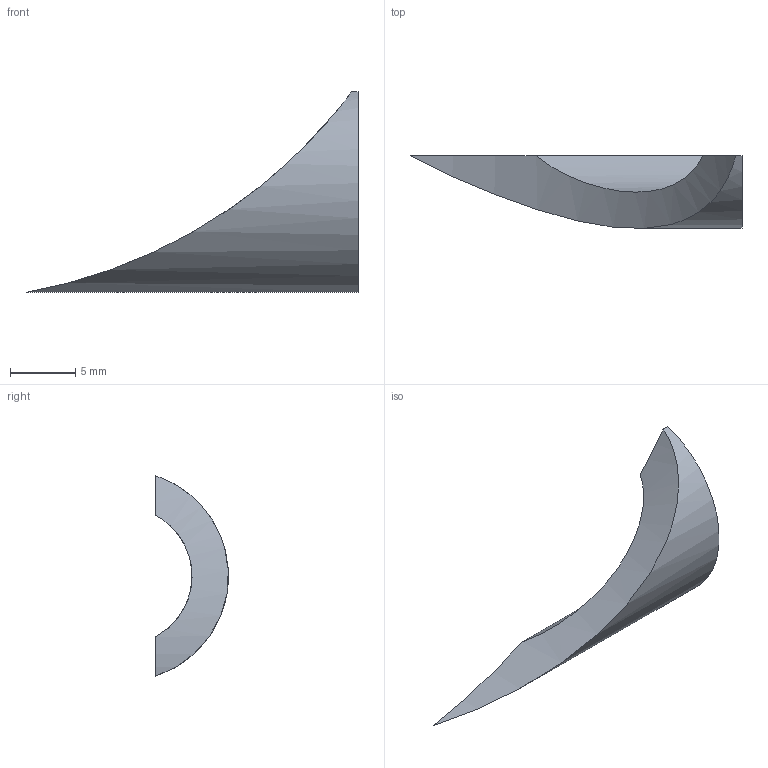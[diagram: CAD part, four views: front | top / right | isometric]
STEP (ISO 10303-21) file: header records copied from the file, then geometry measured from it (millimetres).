
FILE_DESCRIPTION(/* description */ ('STEP AP242 Edition 2','CAx-IF Rec.Pracs.---Representation and Presentation of Product Manufacturing Information (PMI)---4.0---2014-10-13','CAx-IF Rec.Pracs.---3D Tessellated Geometry---0.4---2014-09-14','2;1','CAx-IF Rec.Pracs.---User Defined Attributes---1.5---2016-08-15'),/* implementation_level */ '2;1');
FILE_NAME(/* name */ 'main - Part 48 - right side linear rod housing',/* time_stamp */ '2026-11-08T20:03:45Z',/* author */ (''),/* organization */ (''),/* preprocessor_version */ 'ST-DEVELOPER v20',/* originating_system */ 'ONSHAPE BY PTC INC, 1.223',/* authorisation */ ' ');
FILE_SCHEMA (('AP242_MANAGED_MODEL_BASED_3D_ENGINEERING_MIM_LF { 1 0 10303 442 3 1 4 }'));
Length unit declared in the file: metre
Products named in the file (1): Part 48 - right side linear rod housing
Bounding box: 25.52 x 5.59 x 15.41 mm (x, y, z)
Volume: 408.8 mm3; surface area: 491.8 mm2
Topology: 1 solids, 1 shells, 6 faces, 12 edges, 8 vertices
Faces by surface type: plane 3, cylinder 3
Entity records: 195 total; most frequent: CARTESIAN_POINT 44, DIRECTION 28, ORIENTED_EDGE 24, EDGE_CURVE 12, AXIS2_PLACEMENT_3D 11, VERTEX_POINT 8, LINE 6, VECTOR 6
